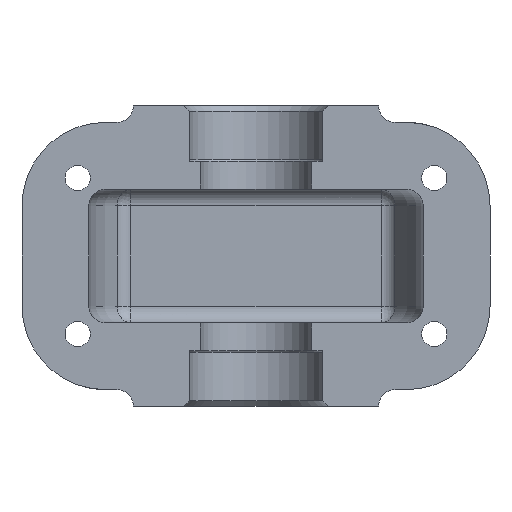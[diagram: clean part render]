
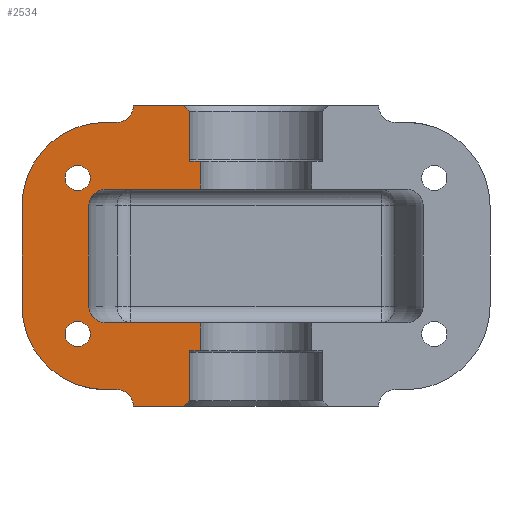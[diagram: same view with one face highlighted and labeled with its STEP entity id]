
A CAD part, front view. The second image highlights one B-rep face of the part: STEP entity #2534.
In plain terms, the highlighted planar face has unit normal (0, -1, 0).
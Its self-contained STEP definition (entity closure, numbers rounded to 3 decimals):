
#25=FACE_BOUND('',#645,.T.);
#26=FACE_BOUND('',#646,.T.);
#124=LINE('',#5101,#222);
#126=LINE('',#5112,#224);
#146=LINE('',#5348,#244);
#148=LINE('',#5354,#246);
#150=LINE('',#5366,#248);
#152=LINE('',#5372,#250);
#157=LINE('',#5394,#255);
#158=LINE('',#5397,#256);
#159=LINE('',#5401,#257);
#160=LINE('',#5403,#258);
#161=LINE('',#5405,#259);
#162=LINE('',#5409,#260);
#163=LINE('',#5411,#261);
#164=LINE('',#5413,#262);
#165=LINE('',#5417,#263);
#166=LINE('',#5420,#264);
#222=VECTOR('',#3273,10.);
#224=VECTOR('',#3287,10.);
#244=VECTOR('',#3443,10.);
#246=VECTOR('',#3449,10.);
#248=VECTOR('',#3463,10.);
#250=VECTOR('',#3469,10.);
#255=VECTOR('',#3494,10.);
#256=VECTOR('',#3497,10.);
#257=VECTOR('',#3500,10.);
#258=VECTOR('',#3501,10.);
#259=VECTOR('',#3502,10.);
#260=VECTOR('',#3505,10.);
#261=VECTOR('',#3506,10.);
#262=VECTOR('',#3507,10.);
#263=VECTOR('',#3510,10.);
#264=VECTOR('',#3513,10.);
#310=PLANE('',#2845);
#474=FACE_OUTER_BOUND('',#644,.T.);
#644=EDGE_LOOP('',(#2137,#2138,#2139,#2140,#2141,#2142,#2143,#2144,#2145,
#2146,#2147,#2148,#2149,#2150,#2151,#2152,#2153,#2154,#2155,#2156,#2157,
#2158,#2159,#2160));
#645=EDGE_LOOP('',(#2161));
#646=EDGE_LOOP('',(#2162));
#854=CIRCLE('',#2712,15.);
#886=CIRCLE('',#2756,15.);
#910=CIRCLE('',#2799,2.25);
#916=CIRCLE('',#2814,2.25);
#925=CIRCLE('',#2831,0.3);
#933=CIRCLE('',#2846,3.);
#934=CIRCLE('',#2847,3.);
#935=CIRCLE('',#2848,0.3);
#936=CIRCLE('',#2849,3.);
#937=CIRCLE('',#2850,3.);
#1083=VERTEX_POINT('',#4751);
#1084=VERTEX_POINT('',#4753);
#1116=VERTEX_POINT('',#5098);
#1117=VERTEX_POINT('',#5100);
#1120=VERTEX_POINT('',#5108);
#1139=VERTEX_POINT('',#5297);
#1145=VERTEX_POINT('',#5324);
#1151=VERTEX_POINT('',#5345);
#1152=VERTEX_POINT('',#5347);
#1154=VERTEX_POINT('',#5353);
#1156=VERTEX_POINT('',#5359);
#1158=VERTEX_POINT('',#5365);
#1160=VERTEX_POINT('',#5371);
#1167=VERTEX_POINT('',#5393);
#1168=VERTEX_POINT('',#5396);
#1169=VERTEX_POINT('',#5398);
#1170=VERTEX_POINT('',#5400);
#1171=VERTEX_POINT('',#5402);
#1172=VERTEX_POINT('',#5404);
#1173=VERTEX_POINT('',#5406);
#1174=VERTEX_POINT('',#5408);
#1175=VERTEX_POINT('',#5410);
#1176=VERTEX_POINT('',#5412);
#1177=VERTEX_POINT('',#5414);
#1178=VERTEX_POINT('',#5416);
#1179=VERTEX_POINT('',#5418);
#1365=EDGE_CURVE('',#1083,#1084,#854,.T.);
#1418=EDGE_CURVE('',#1116,#1117,#124,.T.);
#1423=EDGE_CURVE('',#1120,#1116,#886,.T.);
#1424=EDGE_CURVE('',#1120,#1084,#126,.T.);
#1466=EDGE_CURVE('',#1139,#1139,#910,.T.);
#1478=EDGE_CURVE('',#1145,#1145,#916,.T.);
#1487=EDGE_CURVE('',#1152,#1151,#146,.T.);
#1490=EDGE_CURVE('',#1154,#1152,#148,.T.);
#1493=EDGE_CURVE('',#1156,#1154,#925,.T.);
#1496=EDGE_CURVE('',#1158,#1156,#150,.T.);
#1499=EDGE_CURVE('',#1160,#1158,#152,.T.);
#1509=EDGE_CURVE('',#1151,#1167,#157,.T.);
#1510=EDGE_CURVE('',#1117,#1167,#933,.T.);
#1511=EDGE_CURVE('',#1168,#1083,#158,.T.);
#1512=EDGE_CURVE('',#1169,#1168,#934,.T.);
#1513=EDGE_CURVE('',#1170,#1169,#159,.T.);
#1514=EDGE_CURVE('',#1170,#1171,#160,.T.);
#1515=EDGE_CURVE('',#1171,#1172,#161,.T.);
#1516=EDGE_CURVE('',#1172,#1173,#935,.T.);
#1517=EDGE_CURVE('',#1173,#1174,#162,.T.);
#1518=EDGE_CURVE('',#1174,#1175,#163,.T.);
#1519=EDGE_CURVE('',#1175,#1176,#164,.T.);
#1520=EDGE_CURVE('',#1176,#1177,#936,.T.);
#1521=EDGE_CURVE('',#1177,#1178,#165,.T.);
#1522=EDGE_CURVE('',#1178,#1179,#937,.T.);
#1523=EDGE_CURVE('',#1179,#1160,#166,.T.);
#2137=ORIENTED_EDGE('',*,*,#1487,.T.);
#2138=ORIENTED_EDGE('',*,*,#1509,.T.);
#2139=ORIENTED_EDGE('',*,*,#1510,.F.);
#2140=ORIENTED_EDGE('',*,*,#1418,.F.);
#2141=ORIENTED_EDGE('',*,*,#1423,.F.);
#2142=ORIENTED_EDGE('',*,*,#1424,.T.);
#2143=ORIENTED_EDGE('',*,*,#1365,.F.);
#2144=ORIENTED_EDGE('',*,*,#1511,.F.);
#2145=ORIENTED_EDGE('',*,*,#1512,.F.);
#2146=ORIENTED_EDGE('',*,*,#1513,.F.);
#2147=ORIENTED_EDGE('',*,*,#1514,.T.);
#2148=ORIENTED_EDGE('',*,*,#1515,.T.);
#2149=ORIENTED_EDGE('',*,*,#1516,.T.);
#2150=ORIENTED_EDGE('',*,*,#1517,.T.);
#2151=ORIENTED_EDGE('',*,*,#1518,.T.);
#2152=ORIENTED_EDGE('',*,*,#1519,.T.);
#2153=ORIENTED_EDGE('',*,*,#1520,.T.);
#2154=ORIENTED_EDGE('',*,*,#1521,.T.);
#2155=ORIENTED_EDGE('',*,*,#1522,.T.);
#2156=ORIENTED_EDGE('',*,*,#1523,.T.);
#2157=ORIENTED_EDGE('',*,*,#1499,.T.);
#2158=ORIENTED_EDGE('',*,*,#1496,.T.);
#2159=ORIENTED_EDGE('',*,*,#1493,.T.);
#2160=ORIENTED_EDGE('',*,*,#1490,.T.);
#2161=ORIENTED_EDGE('',*,*,#1466,.T.);
#2162=ORIENTED_EDGE('',*,*,#1478,.T.);
#2534=ADVANCED_FACE('',(#474,#25,#26),#310,.T.);
#2712=AXIS2_PLACEMENT_3D('',#4754,#3185,#3186);
#2756=AXIS2_PLACEMENT_3D('',#5110,#3283,#3284);
#2799=AXIS2_PLACEMENT_3D('',#5299,#3380,#3381);
#2814=AXIS2_PLACEMENT_3D('',#5326,#3416,#3417);
#2831=AXIS2_PLACEMENT_3D('',#5360,#3456,#3457);
#2845=AXIS2_PLACEMENT_3D('',#5392,#3492,#3493);
#2846=AXIS2_PLACEMENT_3D('',#5395,#3495,#3496);
#2847=AXIS2_PLACEMENT_3D('',#5399,#3498,#3499);
#2848=AXIS2_PLACEMENT_3D('',#5407,#3503,#3504);
#2849=AXIS2_PLACEMENT_3D('',#5415,#3508,#3509);
#2850=AXIS2_PLACEMENT_3D('',#5419,#3511,#3512);
#3185=DIRECTION('center_axis',(0.,1.,0.));
#3186=DIRECTION('ref_axis',(-1.,0.,0.));
#3273=DIRECTION('',(1.,0.,0.));
#3283=DIRECTION('center_axis',(0.,1.,0.));
#3284=DIRECTION('ref_axis',(-1.,0.,0.));
#3287=DIRECTION('',(0.,0.,-1.));
#3380=DIRECTION('center_axis',(0.,1.,0.));
#3381=DIRECTION('ref_axis',(-1.,0.,0.));
#3416=DIRECTION('center_axis',(0.,1.,0.));
#3417=DIRECTION('ref_axis',(-1.,0.,0.));
#3443=DIRECTION('',(-0.707,0.,0.707));
#3449=DIRECTION('',(0.,0.,1.));
#3456=DIRECTION('center_axis',(0.,1.,0.));
#3457=DIRECTION('ref_axis',(-1.,0.,0.));
#3463=DIRECTION('',(-1.,0.,0.));
#3469=DIRECTION('',(0.,0.,1.));
#3492=DIRECTION('center_axis',(0.,-1.,0.));
#3493=DIRECTION('ref_axis',(1.,0.,0.));
#3494=DIRECTION('',(-1.,0.,0.));
#3495=DIRECTION('center_axis',(0.,-1.,0.));
#3496=DIRECTION('ref_axis',(-1.,0.,0.));
#3497=DIRECTION('',(-1.,0.,0.));
#3498=DIRECTION('center_axis',(0.,-1.,0.));
#3499=DIRECTION('ref_axis',(-1.,0.,0.));
#3500=DIRECTION('',(-1.,0.,0.));
#3501=DIRECTION('',(0.707,0.,0.707));
#3502=DIRECTION('',(0.,0.,1.));
#3503=DIRECTION('center_axis',(0.,1.,0.));
#3504=DIRECTION('ref_axis',(-1.,0.,0.));
#3505=DIRECTION('',(1.,0.,0.));
#3506=DIRECTION('',(0.,0.,1.));
#3507=DIRECTION('',(-1.,0.,0.));
#3508=DIRECTION('center_axis',(0.,1.,0.));
#3509=DIRECTION('ref_axis',(-1.,0.,0.));
#3510=DIRECTION('',(0.,0.,1.));
#3511=DIRECTION('center_axis',(0.,1.,0.));
#3512=DIRECTION('ref_axis',(-1.,0.,0.));
#3513=DIRECTION('',(1.,0.,0.));
#4751=CARTESIAN_POINT('',(-27.,0.,-24.));
#4753=CARTESIAN_POINT('',(-42.,0.,-9.));
#4754=CARTESIAN_POINT('Origin',(-27.,0.,-9.));
#5098=CARTESIAN_POINT('',(-27.,0.,24.));
#5100=CARTESIAN_POINT('',(-25.,0.,24.));
#5101=CARTESIAN_POINT('',(-42.,0.,24.));
#5108=CARTESIAN_POINT('',(-42.,0.,9.));
#5110=CARTESIAN_POINT('Origin',(-27.,0.,9.));
#5112=CARTESIAN_POINT('',(-42.,0.,0.));
#5297=CARTESIAN_POINT('',(-29.75,0.,14.));
#5299=CARTESIAN_POINT('Origin',(-32.,0.,14.));
#5324=CARTESIAN_POINT('',(-29.75,0.,-14.));
#5326=CARTESIAN_POINT('Origin',(-32.,0.,-14.));
#5345=CARTESIAN_POINT('',(-13.,0.,27.));
#5347=CARTESIAN_POINT('',(-12.,0.,26.));
#5348=CARTESIAN_POINT('',(-12.5,0.,26.5));
#5353=CARTESIAN_POINT('',(-12.,0.,17.3));
#5354=CARTESIAN_POINT('',(-12.,0.,21.65));
#5359=CARTESIAN_POINT('',(-11.7,0.,17.));
#5360=CARTESIAN_POINT('Origin',(-11.7,0.,17.3));
#5365=CARTESIAN_POINT('',(-10.,0.,17.));
#5366=CARTESIAN_POINT('',(-15.15,0.,17.));
#5371=CARTESIAN_POINT('',(-10.,0.,12.));
#5372=CARTESIAN_POINT('',(-10.,0.,14.5));
#5392=CARTESIAN_POINT('Origin',(-42.,0.,0.));
#5393=CARTESIAN_POINT('',(-22.,0.,27.));
#5394=CARTESIAN_POINT('',(27.,0.,27.));
#5395=CARTESIAN_POINT('Origin',(-25.,0.,27.));
#5396=CARTESIAN_POINT('',(-25.,0.,-24.));
#5397=CARTESIAN_POINT('',(-42.,0.,-24.));
#5398=CARTESIAN_POINT('',(-22.,0.,-27.));
#5399=CARTESIAN_POINT('Origin',(-25.,0.,-27.));
#5400=CARTESIAN_POINT('',(-13.,0.,-27.));
#5401=CARTESIAN_POINT('',(27.,0.,-27.));
#5402=CARTESIAN_POINT('',(-12.,0.,-26.));
#5403=CARTESIAN_POINT('',(-12.5,0.,-26.5));
#5404=CARTESIAN_POINT('',(-12.,0.,-17.3));
#5405=CARTESIAN_POINT('',(-12.,0.,-21.65));
#5406=CARTESIAN_POINT('',(-11.7,0.,-17.));
#5407=CARTESIAN_POINT('Origin',(-11.7,0.,-17.3));
#5408=CARTESIAN_POINT('',(-10.,0.,-17.));
#5409=CARTESIAN_POINT('',(-15.15,0.,-17.));
#5410=CARTESIAN_POINT('',(-10.,0.,-12.));
#5411=CARTESIAN_POINT('',(-10.,0.,-14.5));
#5412=CARTESIAN_POINT('',(-27.,0.,-12.));
#5413=CARTESIAN_POINT('',(-21.,0.,-12.));
#5414=CARTESIAN_POINT('',(-30.,0.,-9.));
#5415=CARTESIAN_POINT('Origin',(-27.,0.,-9.));
#5416=CARTESIAN_POINT('',(-30.,0.,9.));
#5417=CARTESIAN_POINT('',(-30.,0.,0.));
#5418=CARTESIAN_POINT('',(-27.,0.,12.));
#5419=CARTESIAN_POINT('Origin',(-27.,0.,9.));
#5420=CARTESIAN_POINT('',(-21.,0.,12.));
